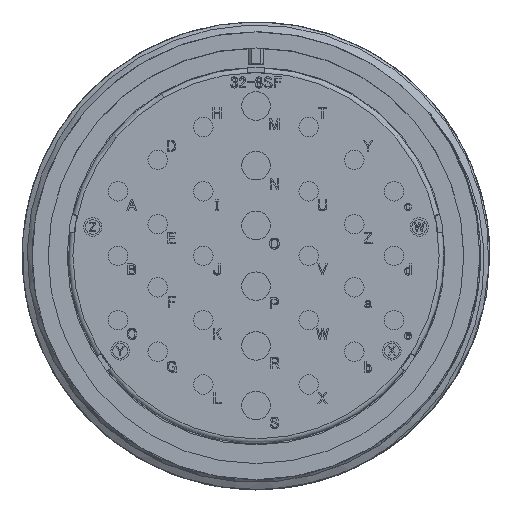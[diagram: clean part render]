
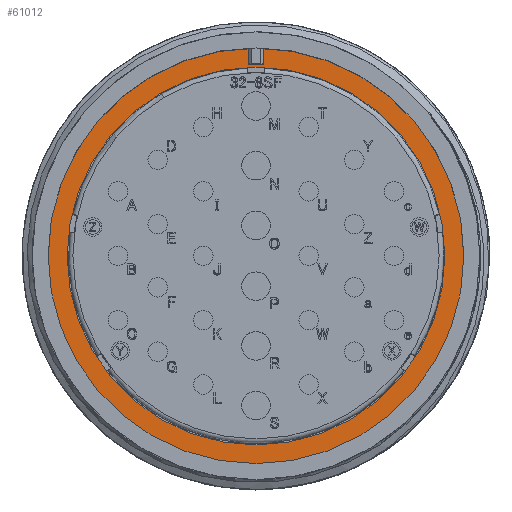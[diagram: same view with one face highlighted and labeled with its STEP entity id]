
A CAD part, top view. The second image highlights one B-rep face of the part: STEP entity #61012.
In plain terms, the highlighted planar face has unit normal (0, 0, 1).
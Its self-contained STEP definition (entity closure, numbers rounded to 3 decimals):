
#1670 = CARTESIAN_POINT ( 'NONE',  ( 20.5, 0., -19.18 ) ) ;
#1755 = EDGE_LOOP ( 'NONE', ( #10369 ) ) ;
#2771 = AXIS2_PLACEMENT_3D ( 'NONE', #10018, #9730, #42939 ) ;
#4976 = VERTEX_POINT ( 'NONE', #26218 ) ;
#7134 = FACE_OUTER_BOUND ( 'NONE', #1755, .T. ) ;
#8387 = EDGE_CURVE ( 'NONE', #4976, #4976, #63443, .T. ) ;
#9730 = DIRECTION ( 'NONE',  ( 0., 0., 1. ) ) ;
#10018 = CARTESIAN_POINT ( 'NONE',  ( 0., 0., -19.18 ) ) ;
#10369 = ORIENTED_EDGE ( 'NONE', *, *, #8387, .T. ) ;
#14401 = FACE_BOUND ( 'NONE', #44390, .T. ) ;
#15405 = AXIS2_PLACEMENT_3D ( 'NONE', #85182, #19267, #39215 ) ;
#18394 = CIRCLE ( 'NONE', #15405, 20.5 ) ;
#19267 = DIRECTION ( 'NONE',  ( 0., 0., 1. ) ) ;
#26218 = CARTESIAN_POINT ( 'NONE',  ( 22.56, 0., -19.18 ) ) ;
#39215 = DIRECTION ( 'NONE',  ( 1., 0., 0. ) ) ;
#42659 = ORIENTED_EDGE ( 'NONE', *, *, #61471, .F. ) ;
#42939 = DIRECTION ( 'NONE',  ( 1., 0., 0. ) ) ;
#44390 = EDGE_LOOP ( 'NONE', ( #42659 ) ) ;
#55734 = CARTESIAN_POINT ( 'NONE',  ( 0., 20.5, -19.18 ) ) ;
#61012 = ADVANCED_FACE ( 'NONE', ( #7134, #14401 ), #62888, .T. ) ;
#61471 = EDGE_CURVE ( 'NONE', #63734, #63734, #18394, .T. ) ;
#62318 = DIRECTION ( 'NONE',  ( 0., 0., 1. ) ) ;
#62888 = PLANE ( 'NONE',  #82606 ) ;
#63443 = CIRCLE ( 'NONE', #2771, 22.56 ) ;
#63734 = VERTEX_POINT ( 'NONE', #1670 ) ;
#75561 = DIRECTION ( 'NONE',  ( 1., 0., 0. ) ) ;
#82606 = AXIS2_PLACEMENT_3D ( 'NONE', #55734, #62318, #75561 ) ;
#85182 = CARTESIAN_POINT ( 'NONE',  ( 0., 0., -19.18 ) ) ;
